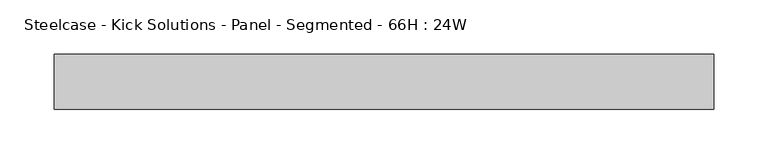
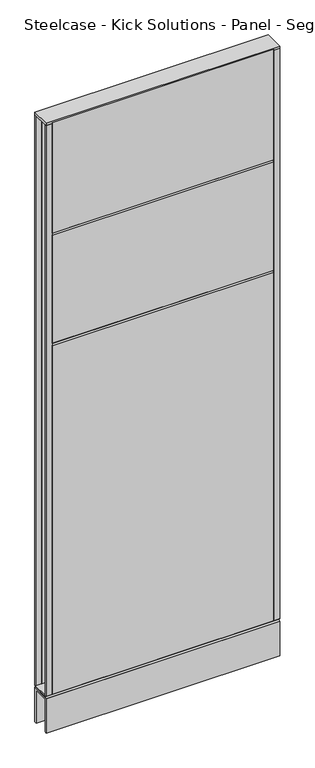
"""IFC4 building model written with IfcOpenShell, lengths in millimetres: furniture geometry, Steelcase - Kick Solutions - Panel - Segmented - 66H : 24W."""

from ifc_helpers import new_model, si_unit, frame, origin, place, context, project, spatial, polyline, outline, extrude, source, transform, mapped, element, save


def steelcase_kick_solutions_panel_segmented_66h_24w_abbc2955(model_context):
    return source(origin(), model_context, "Body", "SweptSolid", [
        extrude(outline(polyline([(1.5e-06, 101.600003), (-3.175, 101.600003), (-3.175, 1676.4), (1.5e-06, 1673.3188448), (1.5e-06, 101.600003)])), frame((15.8749996, 0.0, 0.0), z_axis=(1.0, 0.0, 0.0), x_axis=(0.0, 1.0, 0.0)), (0.0, 0.0, 1.0), 577.8500008),
        extrude(outline(polyline([(-50.8000015, 1374.6811552), (-50.8000015, 1679.448), (-47.625, 1676.4), (-47.625, 1371.6), (-50.8000015, 1374.6811552)])), frame((15.8749996, 0.0, 0.0), z_axis=(1.0, 0.0, 0.0), x_axis=(0.0, 1.0, 0.0)), (0.0, 0.0, 1.0), 577.8500008),
        extrude(outline(polyline([(-50.8000015, 1069.8811552), (-50.8000015, 1368.5188448), (-47.625, 1371.6), (-47.625, 1066.8), (-50.8000015, 1069.8811552)])), frame((15.8749996, 0.0, 0.0), z_axis=(1.0, 0.0, 0.0), x_axis=(0.0, 1.0, 0.0)), (0.0, 0.0, 1.0), 577.8500008),
        extrude(outline(polyline([(-50.8000015, 101.600003), (-50.8000015, 1063.7188448), (-47.625, 1066.8), (-47.625, 101.600003), (-50.8000015, 101.600003)])), frame((15.8749996, 0.0, 0.0), z_axis=(1.0, 0.0, 0.0), x_axis=(0.0, 1.0, 0.0)), (0.0, 0.0, 1.0), 577.8500008),
        extrude(outline(polyline([(609.6, -3.1750015), (593.7250004, -3.1750015), (593.7250004, 0.0), (609.6, 0.0), (609.6, -3.1750015)])), frame((0.0, 0.0, 101.7169049), z_axis=(0.0, 0.0, 1.0), x_axis=(1.0, 0.0, 0.0)), (0.0, 0.0, 1.0), 1574.799997),
        extrude(outline(polyline([(15.8749996, -50.8000015), (0.0, -50.8000015), (0.0, -47.625), (15.8749996, -47.625), (15.8749996, -50.8000015)])), frame((0.0, 0.0, 101.7169049), z_axis=(0.0, 0.0, 1.0), x_axis=(1.0, 0.0, 0.0)), (0.0, 0.0, 1.0), 1574.799997),
        extrude(outline(polyline([(-50.7995075, 101.7169049), (-0.000494, 101.7169049), (-3.0583512, 98.5421458), (-47.7416503, 98.5421458), (-50.7995075, 101.7169049)])), frame((0.0, 0.0, 0.0), z_axis=(1.0, 0.0, 0.0), x_axis=(0.0, 1.0, 0.0)), (0.0, 0.0, 1.0), 609.6),
        extrude(outline(polyline([(609.6, 0.0), (609.6, -50.8000015), (0.0, -50.8000015), (0.0, 0.0), (609.6, 0.0)])), frame((0.0, 0.0, 1676.5169018), z_axis=(0.0, 0.0, 1.0), x_axis=(1.0, 0.0, 0.0)), (0.0, 0.0, 1.0), 6.35),
        extrude(outline(polyline([(15.8749996, -3.1750015), (0.0, -3.1750015), (0.0, 0.0), (15.8749996, 0.0), (15.8749996, -3.1750015)])), frame((0.0, 0.0, 101.7169049), z_axis=(0.0, 0.0, 1.0), x_axis=(1.0, 0.0, 0.0)), (0.0, 0.0, 1.0), 1574.799997),
        extrude(outline(polyline([(609.6, -50.8000015), (593.7250004, -50.8000015), (593.7250004, -47.625), (609.6, -47.625), (609.6, -50.8000015)])), frame((0.0, 0.0, 101.7169049), z_axis=(0.0, 0.0, 1.0), x_axis=(1.0, 0.0, 0.0)), (0.0, 0.0, 1.0), 1574.799997),
        extrude(outline(polyline([(-50.8000015, 95.3668927), (-47.6247484, 98.5421458), (-3.1752531, 98.5421458), (0.0, 95.3668927), (-50.8000015, 95.3668927)])), frame((0.0, 0.0, 0.0), z_axis=(1.0, 0.0, 0.0), x_axis=(0.0, 1.0, 0.0)), (0.0, 0.0, 1.0), 609.6),
        extrude(outline(polyline([(0.0, 0.0), (-5.08, 0.0), (-5.08, 90.2869018), (-45.7200015, 90.2869018), (-45.7200015, 0.0), (-50.8000015, 0.0), (-50.8000015, 95.3669018), (0.0, 95.3669018), (0.0, 0.0)])), frame((0.0, 0.0, 0.0), z_axis=(1.0, 0.0, 0.0), x_axis=(0.0, 1.0, 0.0)), (0.0, 0.0, 1.0), 609.6),
    ])


if __name__ == "__main__":
    model = new_model("IFC4")
    model_context = context("Model", 3, world=origin())
    ifc_project = project(units=[si_unit("LENGTHUNIT", "METRE", prefix="MILLI")], contexts=[model_context])
    site = spatial("IfcSite", under=ifc_project)
    building = spatial("IfcBuilding", under=site)
    placement = place(None, origin())
    steelcase_kick_solutions_panel_segmented_66h_24w_shape = steelcase_kick_solutions_panel_segmented_66h_24w_abbc2955(model_context)
    element("IfcFurniture", 1, ObjectType="Steelcase - Kick Solutions - Panel - Segmented - 66H : 24W", at=placement, inside=building, context=model_context, shape_type="MappedRepresentation", body=[
        mapped(steelcase_kick_solutions_panel_segmented_66h_24w_shape, transform((0.0, 0.0, 0.0), x_axis=(1.0, 0.0, 0.0), y_axis=(0.0, 1.0, 0.0), z_axis=(0.0, 0.0, 1.0))),
    ])
    save(model, "model.ifc")
